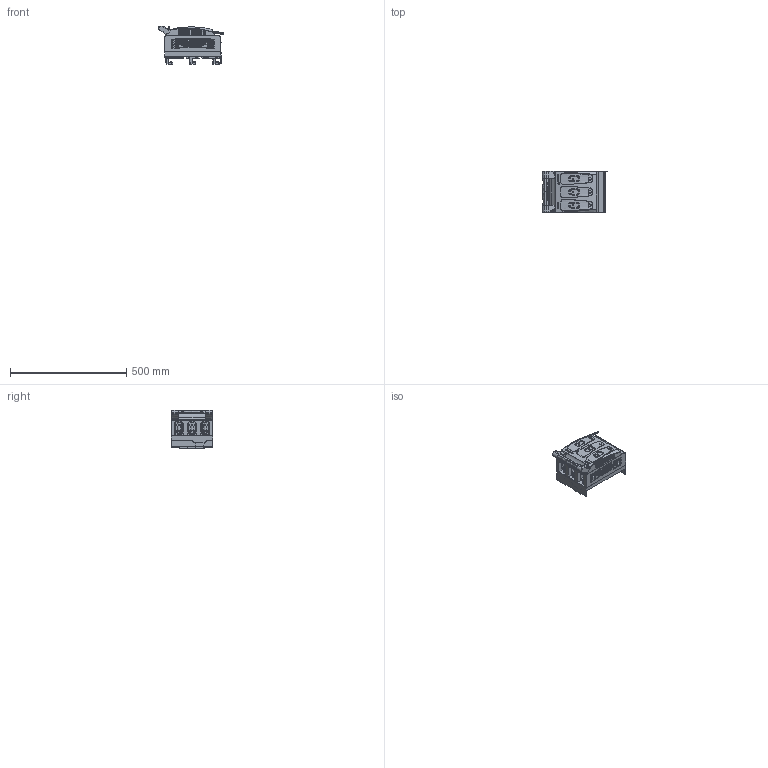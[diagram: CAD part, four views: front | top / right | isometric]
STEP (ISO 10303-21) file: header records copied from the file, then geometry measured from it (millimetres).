
FILE_DESCRIPTION(/* description */ (''),/* implementation_level */ '2;1');
FILE_NAME(/* name */ 'RBK 1-V-SG 100.stp',/* time_stamp */ '2020-09-04T12:04:49+02:00',/* author */ (''),/* organization */ (''),/* preprocessor_version */ 'ST-DEVELOPER v16',/* originating_system */ 'SIEMENS PLM Software NX 10.0',/* authorisation */ '');
FILE_SCHEMA (('AUTOMOTIVE_DESIGN { 1 0 10303 214 3 1 1 1 }'));
Products named in the file (1): Apat00E05B6D4oov
Bounding box: 1402.39 x 180 x 1427.28 mm (x, y, z)
Volume: 4812776.7 mm3; surface area: 370017.6 mm2
Topology: 1 solids, 8 shells, 2760 faces, 7387 edges, 4717 vertices
Faces by surface type: plane 1818, cylinder 342, bspline 335, cone 119, torus 76, extrusion 28, sphere 24, revolution 18
Entity records: 101722 total; most frequent: CARTESIAN_POINT 34324, ORIENTED_EDGE 14596, DIRECTION 13446, EDGE_CURVE 7298, AXIS2_PLACEMENT_3D 4710, VERTEX_POINT 4699, VECTOR 4008, LINE 3980
